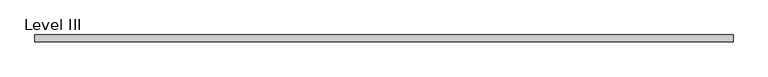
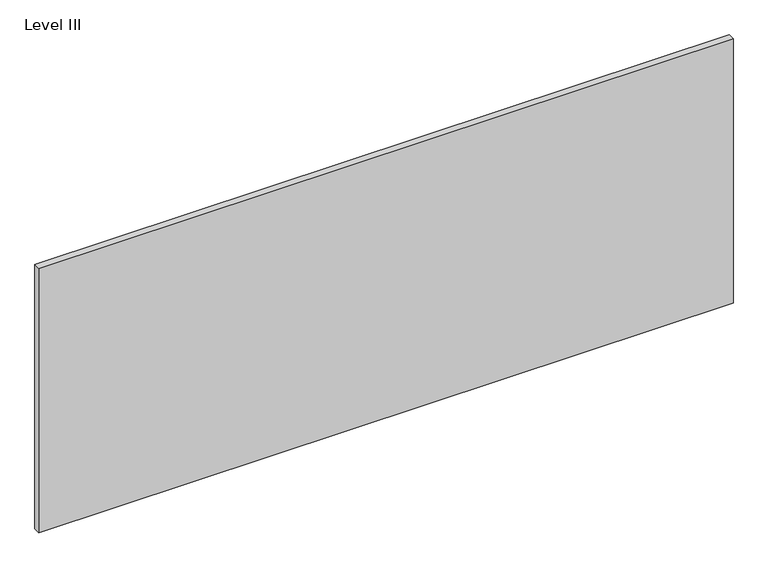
"""IFC4 building model written with IfcOpenShell, lengths in millimetres: proxy geometry, Panel-Fascia-Teknion-Altos-Landscape : Level III."""

from ifc_helpers import new_model, si_unit, frame, origin, place, context, project, spatial, polyline, outline, extrude, source, transform, mapped, element, save


def level_iii_bffd5232(model_context):
    return source(origin(), model_context, "Body", "SweptSolid", [
        extrude(outline(polyline([(998.8407125, 9.525), (998.8407125, -9.525), (-998.8407125, -9.525), (-998.8407125, 9.525), (998.8407125, 9.525)])), frame((0.0, 0.0, 3.175), z_axis=(0.0, 0.0, 1.0), x_axis=(1.0, 0.0, 0.0)), (0.0, 0.0, 1.0), 804.418),
    ])


if __name__ == "__main__":
    model = new_model("IFC4")
    model_context = context("Model", 3, world=origin())
    ifc_project = project(units=[si_unit("LENGTHUNIT", "METRE", prefix="MILLI")], contexts=[model_context])
    site = spatial("IfcSite", under=ifc_project)
    building = spatial("IfcBuilding", under=site)
    placement = place(None, origin())
    level_iii_shape = level_iii_bffd5232(model_context)
    element("IfcBuildingElementProxy", 1, Name="Panel-Fascia-Teknion-Altos-Landscape : Level III", ObjectType="Panel-Fascia-Teknion-Altos-Landscape : Level III", at=placement, inside=building, context=model_context, shape_type="MappedRepresentation", body=[
        mapped(level_iii_shape, transform((0.0, 0.0, 0.0), x_axis=(1.0, 0.0, 0.0), y_axis=(0.0, 1.0, 0.0), z_axis=(0.0, 0.0, 1.0))),
    ])
    save(model, "model.ifc")
